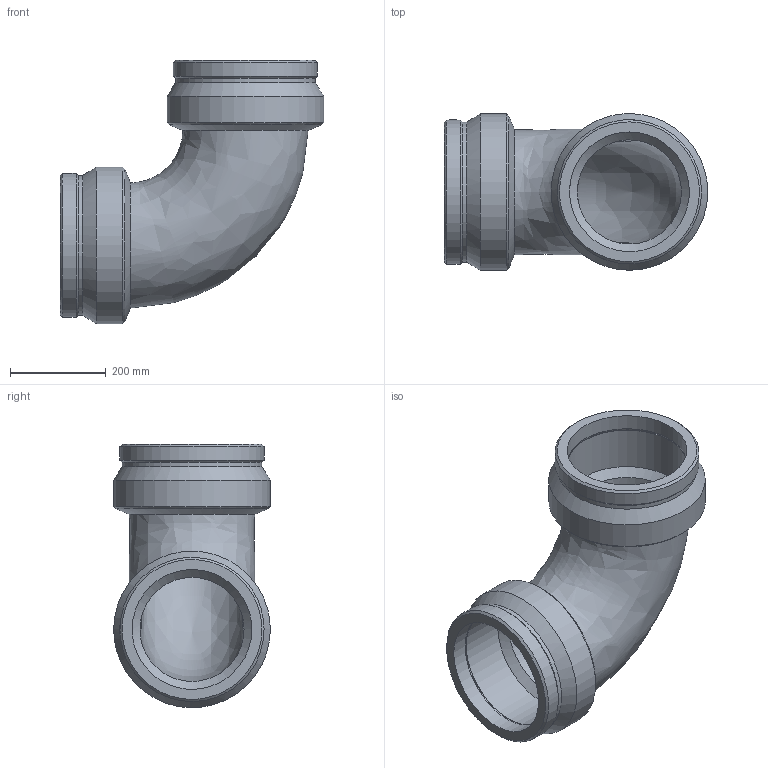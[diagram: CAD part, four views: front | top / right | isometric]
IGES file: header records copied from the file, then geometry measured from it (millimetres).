
Global section: file name: 490504250; native system: Autodesk Inventor 2026; preprocessor: unknown; author: KIM; date: 20260322.131257; units: millimetre
Bounding box: 549.96 x 327 x 549.96 mm (x, y, z)
Volume: 14559627.9 mm3; surface area: 1186461.6 mm2
Topology: 1 solids, 1 shells, 42 faces, 108 edges, 76 vertices
Faces by surface type: bspline 42
